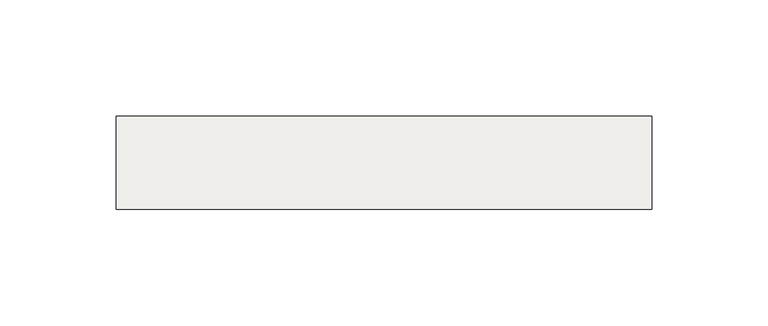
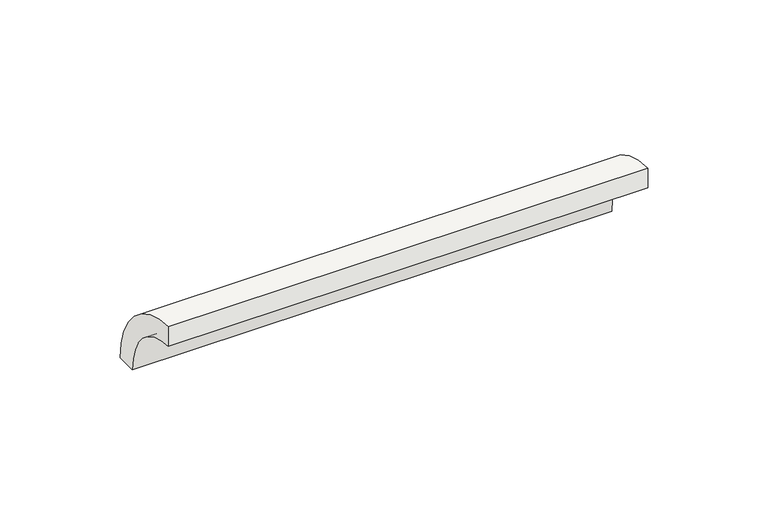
"""IFC4 building model written with IfcOpenShell, lengths in millimetres: slab geometry, ROSA GRES_138 : Pieza 138_Aqua_Plomo_Anti-Slip."""

import ifcopenshell
import ifcopenshell.guid

model = None  # the IFC model being written
_history = None  # IfcOwnerHistory: only IFC2X3 demands one
_inside = {}  # id of a spatial element -> (the spatial element, [elements in it])
_under = {}  # id of a project, library or spatial element -> (it, [spatial elements below it])
_declared = {}  # id of a project -> (the project, [libraries it declares])
_typed = {}  # id of a type object -> (the type object, [elements of that type])
_made_of = {}  # id of a material, layer set ... -> (it, [elements and type objects made of it])


def new_model(schema):
    """Start an empty IFC model of exactly this schema.

    Asked for "IFC4X3", IfcOpenShell would pick the latest addendum, in which some entities
    have other attributes; the version numbers below select the first issue.
    IFC2X3 requires an IfcOwnerHistory on every rooted entity: one is made here for all.
    """
    global model, _history
    if schema == "IFC4X3":
        model = ifcopenshell.file(schema_version=(4, 3, 0, 0))
    else:
        model = ifcopenshell.file(schema=schema)
    _inside.clear()
    _under.clear()
    _declared.clear()
    _typed.clear()
    _made_of.clear()
    _history = None
    if model.schema == "IFC2X3":
        org = make("IfcOrganization", Name="unknown")
        user = make(
            "IfcPersonAndOrganization",
            ThePerson=make("IfcPerson", FamilyName="unknown"),
            TheOrganization=org,
        )
        app = make(
            "IfcApplication",
            ApplicationDeveloper=org,
            Version="unknown",
            ApplicationFullName="unknown",
            ApplicationIdentifier="unknown",
        )
        _history = make(
            "IfcOwnerHistory",
            OwningUser=user,
            OwningApplication=app,
            ChangeAction="ADDED",
            CreationDate=0,
        )
    return model


def make(cls, **values):
    """One entity of the class cls with the attributes given. An attribute that is None is left unset."""
    return model.create_entity(
        cls, **{name: value for name, value in values.items() if value is not None}
    )


def rooted(cls, **values):
    """An entity with a GlobalId (a new one), such as an element, a storey or a relation."""
    return make(cls, GlobalId=ifcopenshell.guid.new(), OwnerHistory=_history, **values)


def si_unit(unit_type, name, prefix=None):
    """IfcSIUnit, for example si_unit("LENGTHUNIT", "METRE", prefix="MILLI")."""
    return make("IfcSIUnit", UnitType=unit_type, Prefix=prefix, Name=name)


def assignment(units):
    """IfcUnitAssignment: the units of a project."""
    return None if units is None else make("IfcUnitAssignment", Units=units)


def point(xyz):
    """IfcCartesianPoint."""
    return None if xyz is None else make("IfcCartesianPoint", Coordinates=xyz)


def direction(xyz):
    """IfcDirection."""
    return None if xyz is None else make("IfcDirection", DirectionRatios=xyz)


def frame(location, z_axis=None, x_axis=None):
    """IfcAxis2Placement3D, a coordinate frame: its origin and axes. An axis left out is left unset."""
    return make(
        "IfcAxis2Placement3D",
        Location=point(location),
        Axis=direction(z_axis),
        RefDirection=direction(x_axis),
    )


def frame_2d(location, x_axis=None):
    """IfcAxis2Placement2D, a coordinate frame in the plane: its origin and x axis."""
    return make(
        "IfcAxis2Placement2D", Location=point(location), RefDirection=direction(x_axis)
    )


def origin():
    """The frame at (0, 0, 0) with its axes left unset."""
    return frame((0.0, 0.0, 0.0))


def origin_2d():
    """The frame at (0, 0) in the plane with its x axis left unset."""
    return frame_2d((0.0, 0.0))


def place(relative_to, where):
    """IfcLocalPlacement: puts the frame where relative to a parent placement (None: the world)."""
    return make(
        "IfcLocalPlacement", PlacementRelTo=relative_to, RelativePlacement=where
    )


def context(
    kind, dimensions, precision=None, world=None, true_north=None, identifier=None
):
    """IfcGeometricRepresentationContext, for example the 3D "Model" context."""
    return make(
        "IfcGeometricRepresentationContext",
        ContextIdentifier=identifier,
        ContextType=kind,
        CoordinateSpaceDimension=dimensions,
        Precision=precision,
        WorldCoordinateSystem=world,
        TrueNorth=true_north,
    )


def project(units=None, contexts=None):
    """IfcProject with its units and contexts."""
    return rooted(
        "IfcProject",
        Name="project",
        RepresentationContexts=contexts,
        UnitsInContext=assignment(units),
    )


def spatial(cls, under=None, at=None, **own):
    """A site, building, storey or space (cls), placed at a placement, below another one or the project."""
    s = rooted(cls, ObjectPlacement=at, **own)
    if under is not None:
        _under.setdefault(under.id(), (under, []))[1].append(s)
    return s


def polyline(points):
    """IfcPolyline through the points."""
    return make("IfcPolyline", Points=[point(p) for p in points])


def circle_curve(where, radius):
    """IfcCircle in the frame where."""
    return make("IfcCircle", Position=where, Radius=radius)


def trimmed(basis, trim1, trim2, sense, master):
    """IfcTrimmedCurve: the piece of a basis curve between two trims."""
    return make(
        "IfcTrimmedCurve",
        BasisCurve=basis,
        Trim1=trim1,
        Trim2=trim2,
        SenseAgreement=sense,
        MasterRepresentation=master,
    )


def segment(curve, same_sense, transition):
    """IfcCompositeCurveSegment."""
    return make(
        "IfcCompositeCurveSegment",
        Transition=transition,
        SameSense=same_sense,
        ParentCurve=curve,
    )


def composite_curve(segments, self_intersect=None):
    """IfcCompositeCurve: segments joined end to end."""
    return make("IfcCompositeCurve", Segments=segments, SelfIntersect=self_intersect)


def outline(outer, holes=None, kind="AREA"):
    """IfcArbitraryClosedProfileDef: a profile drawn as a closed curve; with holes, ...WithVoids."""
    if holes is None:
        return make("IfcArbitraryClosedProfileDef", ProfileType=kind, OuterCurve=outer)
    return make(
        "IfcArbitraryProfileDefWithVoids",
        ProfileType=kind,
        OuterCurve=outer,
        InnerCurves=holes,
    )


def extrude(swept, where, along, depth):
    """IfcExtrudedAreaSolid: the profile swept, set in the frame where, extruded along a direction by depth."""
    return make(
        "IfcExtrudedAreaSolid",
        SweptArea=swept,
        Position=where,
        ExtrudedDirection=direction(along),
        Depth=depth,
    )


def shape(context_of_items, identifier, shape_type, items):
    """IfcShapeRepresentation: the items that make up one representation, for example the "Body"."""
    return make(
        "IfcShapeRepresentation",
        ContextOfItems=context_of_items,
        RepresentationIdentifier=identifier,
        RepresentationType=shape_type,
        Items=items,
    )


def source(mapping_origin, context_of_items, identifier, shape_type, items):
    """IfcRepresentationMap: a shape defined once, which mapped items show again and again."""
    return make(
        "IfcRepresentationMap",
        MappingOrigin=mapping_origin,
        MappedRepresentation=shape(context_of_items, identifier, shape_type, items),
    )


def transform(
    local_origin,
    x_axis=None,
    y_axis=None,
    z_axis=None,
    scale=None,
    scale2=None,
    scale3=None,
    uniform=True,
):
    """IfcCartesianTransformationOperator3D, or its non-uniform kind. x_axis, y_axis, z_axis: its Axis1, 2, 3."""
    if uniform:
        return make(
            "IfcCartesianTransformationOperator3D",
            Axis1=direction(x_axis),
            Axis2=direction(y_axis),
            LocalOrigin=point(local_origin),
            Scale=scale,
            Axis3=direction(z_axis),
        )
    return make(
        "IfcCartesianTransformationOperator3DnonUniform",
        Axis1=direction(x_axis),
        Axis2=direction(y_axis),
        LocalOrigin=point(local_origin),
        Scale=scale,
        Axis3=direction(z_axis),
        Scale2=scale2,
        Scale3=scale3,
    )


def mapped(mapping_source, mapping_target):
    """IfcMappedItem: shows the shape of a source again, moved by a transform."""
    return make(
        "IfcMappedItem", MappingSource=mapping_source, MappingTarget=mapping_target
    )


def made_of(thing, what):
    """Note that an element or type object is made of a material, layer set ...; save() writes the relation."""
    if what is not None:
        _made_of.setdefault(what.id(), (what, []))[1].append(thing)
    return thing


def element(
    cls,
    number,
    at=None,
    inside=None,
    cuts=None,
    type_object=None,
    material=None,
    context=None,
    identifier="Body",
    shape_type=None,
    held_by="IfcProductDefinitionShape",
    body=None,
    shapes=None,
    **own,
):
    """One element of the class cls, such as IfcWall. Its Tag is "e" and its number.

    at: its placement. inside: the storey or other place that contains it. cuts: it is an
    opening in that element (IfcRelVoidsElement). A single representation is given by context,
    identifier, shape_type and body (its items); several are given by shapes. held_by: the class
    of the entity that holds the representations. save() writes the other relations.
    """
    e = rooted(cls, Tag="e%d" % number, ObjectPlacement=at, **own)
    if body is not None:
        shapes = [shape(context, identifier, shape_type, body)]
    if shapes is not None:
        e.Representation = make(held_by, Representations=shapes)
    if inside is not None:
        _inside.setdefault(inside.id(), (inside, []))[1].append(e)
    if cuts is not None:
        rooted(
            "IfcRelVoidsElement", RelatingBuildingElement=cuts, RelatedOpeningElement=e
        )
    if type_object is not None:
        _typed.setdefault(type_object.id(), (type_object, []))[1].append(e)
    return made_of(e, material)


def aggregate(whole, parts):
    """IfcRelAggregates: a whole, such as a stair, and the parts it consists of."""
    return rooted("IfcRelAggregates", RelatingObject=whole, RelatedObjects=parts)


def save(model, path):
    """Write the relations noted so far, then the file.

    IfcRelAggregates (storeys below a building ...), IfcRelContainedInSpatialStructure (elements
    in a storey), IfcRelDefinesByType, IfcRelAssociatesMaterial and IfcRelDeclares: one each for
    every whole, place, type object, material and project.
    """
    for whole, parts in _under.values():
        aggregate(whole, parts)
    for where, things in _inside.values():
        rooted(
            "IfcRelContainedInSpatialStructure",
            RelatedElements=things,
            RelatingStructure=where,
        )
    for kind, things in _typed.values():
        rooted("IfcRelDefinesByType", RelatedObjects=things, RelatingType=kind)
    for what, things in _made_of.values():
        rooted("IfcRelAssociatesMaterial", RelatedObjects=things, RelatingMaterial=what)
    for by, libraries in _declared.values():
        rooted("IfcRelDeclares", RelatingContext=by, RelatedDefinitions=libraries)
    model.write(path)


def slab_20e46eeb(model_context):
    return source(origin(), model_context, "Body", "SweptSolid", [
        extrude(outline(composite_curve([segment(trimmed(circle_curve(origin_2d(), 40.0), [point((0.0, 40.0))], [point((40.0, 0.0))], False, "CARTESIAN"), True, "CONTINUOUS"), segment(polyline([(40.0, 0.0), (30.0265886, 0.0)]), True, "CONTINUOUS"), segment(trimmed(circle_curve(frame_2d((0.0044453, 0.0044453)), 30.0221435), [point((30.0265886, 0.0))], [point((0.0, 30.0265886))], True, "CARTESIAN"), True, "CONTINUOUS"), segment(polyline([(0.0, 30.0265886), (0.0, 40.0)]), True, "CONTINUOUS")], self_intersect=False)), frame((0.0, 0.0, 0.0), z_axis=(1.0, 0.0, 0.0), x_axis=(0.0, 1.0, 0.0)), (0.0, 0.0, 1.0), 229.95975),
    ])


if __name__ == "__main__":
    model = new_model("IFC4")
    model_context = context("Model", 3, world=origin())
    ifc_project = project(units=[si_unit("LENGTHUNIT", "METRE", prefix="MILLI")], contexts=[model_context])
    site = spatial("IfcSite", under=ifc_project)
    building = spatial("IfcBuilding", under=site)
    placement = place(None, origin())
    slab_shape = slab_20e46eeb(model_context)
    element("IfcSlab", 1, ObjectType="ROSA GRES_138 : Pieza 138_Aqua_Plomo_Anti-Slip", at=placement, inside=building, context=model_context, shape_type="MappedRepresentation", body=[
        mapped(slab_shape, transform((0.0, 0.0, 0.0), x_axis=(1.0, 0.0, 0.0), y_axis=(0.0, 1.0, 0.0), z_axis=(0.0, 0.0, 1.0))),
    ])
    save(model, "model.ifc")
